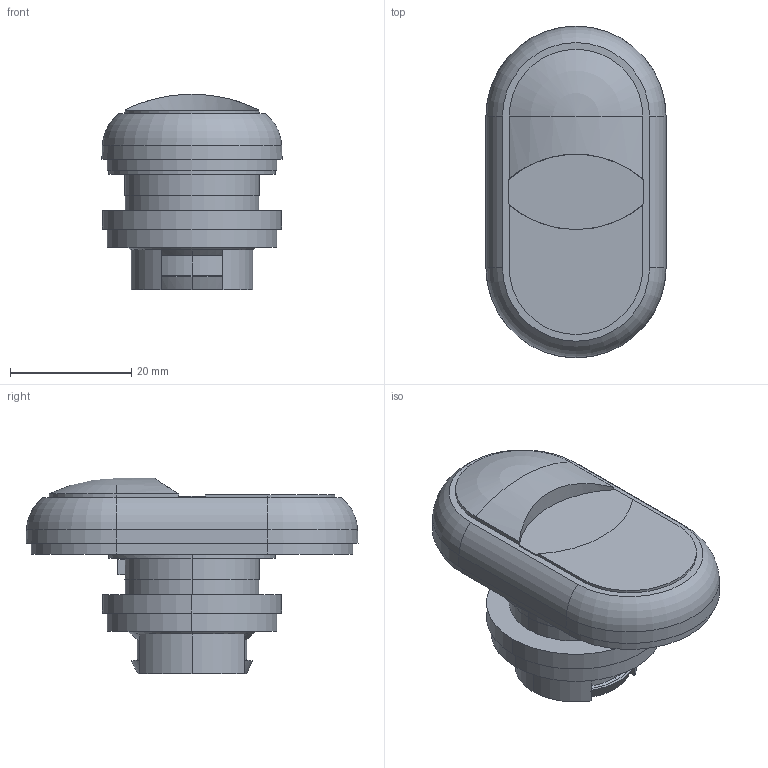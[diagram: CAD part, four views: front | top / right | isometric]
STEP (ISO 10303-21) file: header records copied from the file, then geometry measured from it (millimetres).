
FILE_DESCRIPTION( ( '' ), '1' );
FILE_NAME( '//expscmdclustefs.cadenas.external/client_exchange/iodir/jobs/output/wkb45972462_no0/STEP/107062_2_03.stp', '2012-06-14T15:03:07', ( '' ), ( '' ), ' ', ' ', ' ' );
FILE_SCHEMA( ( 'CONFIG_CONTROL_DESIGN' ) );
Length unit declared in the file: millimetre
Products named in the file (1): 1
Bounding box: 29.7 x 54.7 x 32.2 mm (x, y, z)
Volume: 22111.3 mm3; surface area: 6165.5 mm2
Topology: 1 solids, 1 shells, 88 faces, 203 edges, 128 vertices
Faces by surface type: plane 40, cylinder 29, cone 16, torus 2, sphere 1
Entity records: 2548 total; most frequent: CARTESIAN_POINT 469, DIRECTION 454, ORIENTED_EDGE 404, EDGE_CURVE 202, AXIS2_PLACEMENT_3D 177, VERTEX_POINT 128, EDGE_LOOP 100, LINE 100
